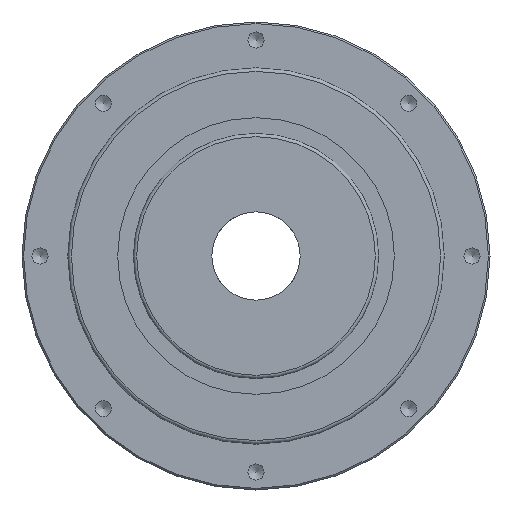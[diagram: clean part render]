
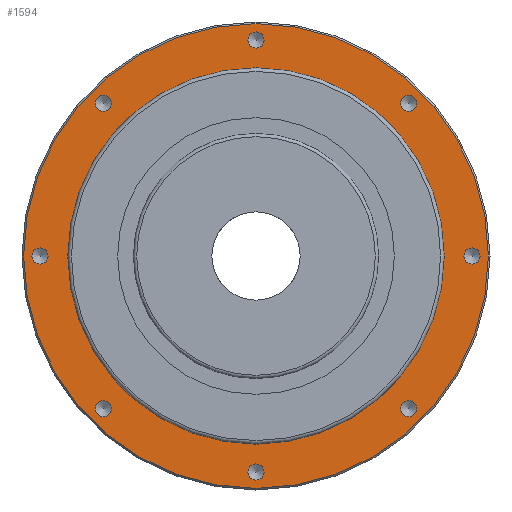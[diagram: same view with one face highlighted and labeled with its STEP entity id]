
A CAD part, left-side view. The second image highlights one B-rep face of the part: STEP entity #1594.
In plain terms, the highlighted planar face has unit normal (-1, 0, 0).
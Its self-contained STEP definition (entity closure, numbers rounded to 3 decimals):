
#116=PLANE('',#1717);
#177=CIRCLE('',#1716,57.5);
#178=CIRCLE('',#1718,2.459);
#179=CIRCLE('',#1719,2.459);
#180=CIRCLE('',#1720,2.459);
#181=CIRCLE('',#1721,2.459);
#182=CIRCLE('',#1722,2.459);
#183=CIRCLE('',#1723,2.459);
#184=CIRCLE('',#1724,2.459);
#185=CIRCLE('',#1725,2.459);
#186=CIRCLE('',#1726,71.);
#282=ORIENTED_EDGE('',*,*,#496,.T.);
#283=ORIENTED_EDGE('',*,*,#497,.T.);
#284=ORIENTED_EDGE('',*,*,#498,.T.);
#285=ORIENTED_EDGE('',*,*,#499,.T.);
#286=ORIENTED_EDGE('',*,*,#500,.T.);
#287=ORIENTED_EDGE('',*,*,#501,.T.);
#288=ORIENTED_EDGE('',*,*,#502,.T.);
#289=ORIENTED_EDGE('',*,*,#503,.T.);
#290=ORIENTED_EDGE('',*,*,#504,.T.);
#291=ORIENTED_EDGE('',*,*,#495,.F.);
#495=EDGE_CURVE('',#602,#602,#177,.T.);
#496=EDGE_CURVE('',#603,#603,#178,.T.);
#497=EDGE_CURVE('',#604,#604,#179,.T.);
#498=EDGE_CURVE('',#605,#605,#180,.T.);
#499=EDGE_CURVE('',#606,#606,#181,.T.);
#500=EDGE_CURVE('',#607,#607,#182,.T.);
#501=EDGE_CURVE('',#608,#608,#183,.T.);
#502=EDGE_CURVE('',#609,#609,#184,.T.);
#503=EDGE_CURVE('',#610,#610,#185,.T.);
#504=EDGE_CURVE('',#611,#611,#186,.T.);
#602=VERTEX_POINT('',#2371);
#603=VERTEX_POINT('',#2374);
#604=VERTEX_POINT('',#2376);
#605=VERTEX_POINT('',#2378);
#606=VERTEX_POINT('',#2380);
#607=VERTEX_POINT('',#2382);
#608=VERTEX_POINT('',#2384);
#609=VERTEX_POINT('',#2386);
#610=VERTEX_POINT('',#2388);
#611=VERTEX_POINT('',#2390);
#713=EDGE_LOOP('',(#282));
#714=EDGE_LOOP('',(#283));
#715=EDGE_LOOP('',(#284));
#716=EDGE_LOOP('',(#285));
#717=EDGE_LOOP('',(#286));
#718=EDGE_LOOP('',(#287));
#719=EDGE_LOOP('',(#288));
#720=EDGE_LOOP('',(#289));
#721=EDGE_LOOP('',(#290));
#722=EDGE_LOOP('',(#291));
#859=FACE_BOUND('',#713,.T.);
#860=FACE_BOUND('',#714,.T.);
#861=FACE_BOUND('',#715,.T.);
#862=FACE_BOUND('',#716,.T.);
#863=FACE_BOUND('',#717,.T.);
#864=FACE_BOUND('',#718,.T.);
#865=FACE_BOUND('',#719,.T.);
#866=FACE_BOUND('',#720,.T.);
#867=FACE_BOUND('',#721,.T.);
#868=FACE_BOUND('',#722,.T.);
#1594=ADVANCED_FACE('',(#859,#860,#861,#862,#863,#864,#865,#866,#867,#868),
#116,.T.);
#1716=AXIS2_PLACEMENT_3D('',#2370,#1931,#1932);
#1717=AXIS2_PLACEMENT_3D('',#2372,#1933,#1934);
#1718=AXIS2_PLACEMENT_3D('',#2373,#1935,#1936);
#1719=AXIS2_PLACEMENT_3D('',#2375,#1937,#1938);
#1720=AXIS2_PLACEMENT_3D('',#2377,#1939,#1940);
#1721=AXIS2_PLACEMENT_3D('',#2379,#1941,#1942);
#1722=AXIS2_PLACEMENT_3D('',#2381,#1943,#1944);
#1723=AXIS2_PLACEMENT_3D('',#2383,#1945,#1946);
#1724=AXIS2_PLACEMENT_3D('',#2385,#1947,#1948);
#1725=AXIS2_PLACEMENT_3D('',#2387,#1949,#1950);
#1726=AXIS2_PLACEMENT_3D('',#2389,#1951,#1952);
#1931=DIRECTION('',(-1.,0.,0.));
#1932=DIRECTION('',(0.,0.,1.));
#1933=DIRECTION('',(-1.,0.,0.));
#1934=DIRECTION('',(0.,0.,1.));
#1935=DIRECTION('',(1.,0.,0.));
#1936=DIRECTION('',(0.,0.,1.));
#1937=DIRECTION('',(1.,0.,0.));
#1938=DIRECTION('',(0.,0.,1.));
#1939=DIRECTION('',(1.,0.,0.));
#1940=DIRECTION('',(0.,0.,1.));
#1941=DIRECTION('',(1.,0.,0.));
#1942=DIRECTION('',(0.,0.,1.));
#1943=DIRECTION('',(1.,0.,0.));
#1944=DIRECTION('',(0.,0.,1.));
#1945=DIRECTION('',(1.,0.,0.));
#1946=DIRECTION('',(0.,0.,1.));
#1947=DIRECTION('',(1.,0.,0.));
#1948=DIRECTION('',(0.,0.,1.));
#1949=DIRECTION('',(1.,0.,0.));
#1950=DIRECTION('',(0.,0.,1.));
#1951=DIRECTION('',(-1.,0.,0.));
#1952=DIRECTION('',(0.,0.,1.));
#2370=CARTESIAN_POINT('',(16.,0.,0.));
#2371=CARTESIAN_POINT('',(16.,0.,57.5));
#2372=CARTESIAN_POINT('',(16.,0.,57.5));
#2373=CARTESIAN_POINT('',(16.,46.669,46.669));
#2374=CARTESIAN_POINT('',(16.,46.669,49.128));
#2375=CARTESIAN_POINT('',(16.,66.,0.));
#2376=CARTESIAN_POINT('',(16.,66.,2.458));
#2377=CARTESIAN_POINT('',(16.,46.669,-46.669));
#2378=CARTESIAN_POINT('',(16.,46.669,-44.211));
#2379=CARTESIAN_POINT('',(16.,0.,-66.));
#2380=CARTESIAN_POINT('',(16.,0.,-63.542));
#2381=CARTESIAN_POINT('',(16.,-46.669,-46.669));
#2382=CARTESIAN_POINT('',(16.,-46.669,-44.211));
#2383=CARTESIAN_POINT('',(16.,-66.,0.));
#2384=CARTESIAN_POINT('',(16.,-66.,2.458));
#2385=CARTESIAN_POINT('',(16.,-46.669,46.669));
#2386=CARTESIAN_POINT('',(16.,-46.669,49.128));
#2387=CARTESIAN_POINT('',(16.,0.,66.));
#2388=CARTESIAN_POINT('',(16.,0.,68.459));
#2389=CARTESIAN_POINT('',(16.,0.,0.));
#2390=CARTESIAN_POINT('',(16.,0.,71.));
